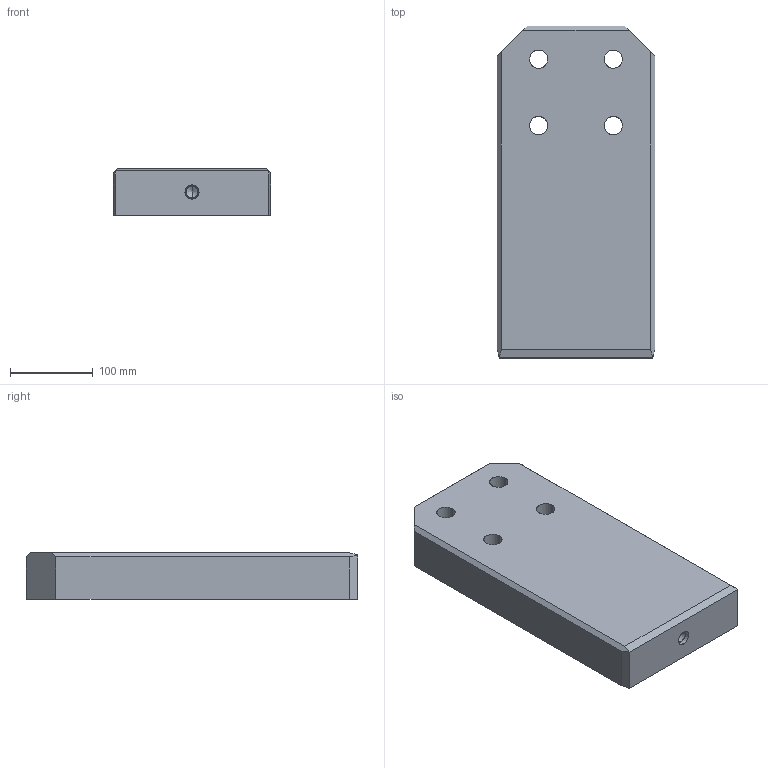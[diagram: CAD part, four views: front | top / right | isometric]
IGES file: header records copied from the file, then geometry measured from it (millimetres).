
Start section: START RECORD GO HERE.
Global section: file name: A927-190X400X56.igs; native system: DASSAULT SYSTEMES CATIA V5 R20 - www.3ds.com; preprocessor: CATIA Version 5 Release 20 ; author: Utente; organization: NB04-ASUS; date: 20200408.203205; units: millimetre
Bounding box: 190 x 400 x 56 mm (x, y, z)
Surface area: 227576 mm2 (no closed solid volume)
Topology: 0 solids, 0 shells, 52 faces, 242 edges, 240 vertices
Faces by surface type: revolution 32, extrusion 20
